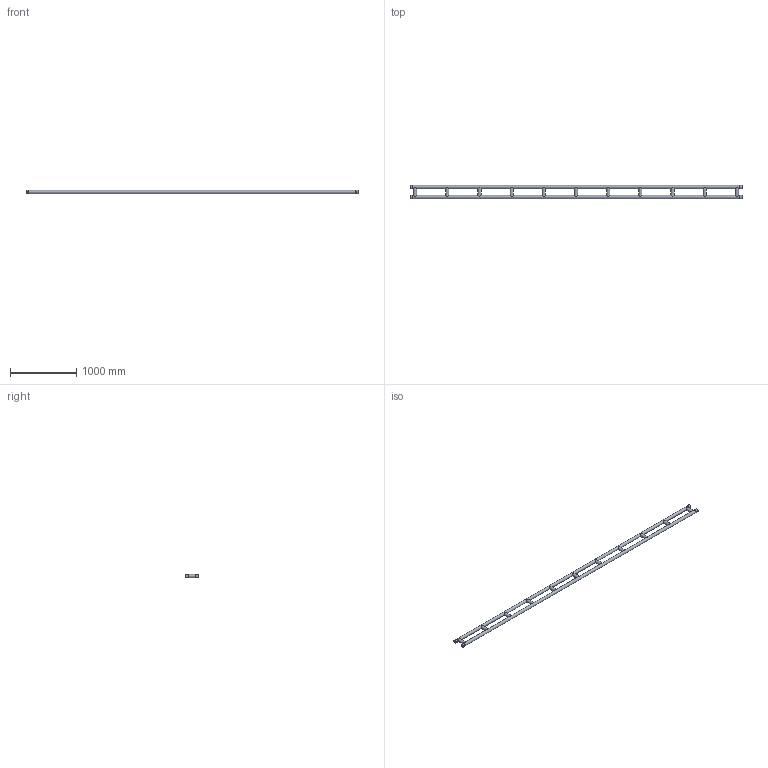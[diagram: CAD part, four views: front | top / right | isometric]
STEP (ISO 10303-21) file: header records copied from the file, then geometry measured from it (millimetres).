
FILE_DESCRIPTION(/* description */ (''),/* implementation_level */ '2;1');
FILE_NAME(/* name */ 'C:\Users\adrian.toca\Desktop\111050573.stp',/* time_stamp */ '2016-09-30T14:34:29+03:00',/* author */ ('adrian.toca'),/* organization */ (''),/* preprocessor_version */ 'ST-DEVELOPER v15.6',/* originating_system */ 'Autodesk Inventor 2015',/* authorisation */ '');
FILE_SCHEMA (('AUTOMOTIVE_DESIGN { 1 0 10303 214 3 1 1 }'));
Length unit declared in the file: millimetre
Products named in the file (1): 260031049
Bounding box: 5000 x 198.3 x 48.3 mm (x, y, z)
Volume: 20493409.8 mm3; surface area: 1682924.4 mm2
Topology: 1 solids, 1 shells, 77 faces, 281 edges, 186 vertices
Faces by surface type: plane 52, cylinder 21, cone 4
Full cylindrical faces by diameter (mm): 10 x4, 48.3 x17
Entity records: 2618 total; most frequent: CARTESIAN_POINT 642, DIRECTION 408, ORIENTED_EDGE 328, AXIS2_PLACEMENT_3D 182, EDGE_CURVE 164, EDGE_LOOP 136, VERTEX_POINT 120, STYLED_ITEM 78
